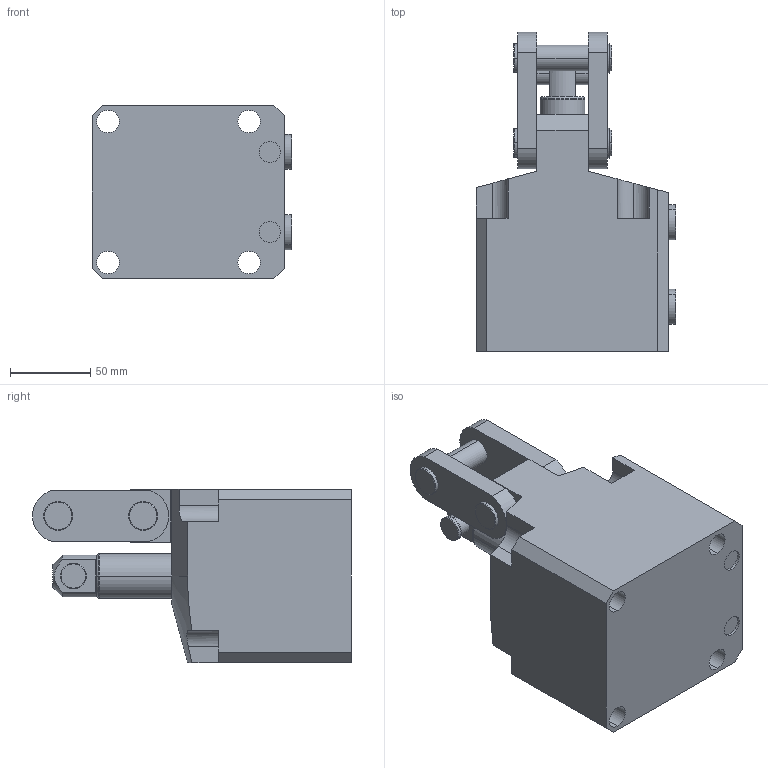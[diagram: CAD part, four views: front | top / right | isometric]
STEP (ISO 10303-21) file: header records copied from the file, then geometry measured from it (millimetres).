
FILE_DESCRIPTION(/* description */ (''),/* implementation_level */ '2;1');
FILE_NAME(/* name */ 'BPC25-L.stp',/* time_stamp */ '2025-01-05T09:56:53+08:00',/* author */ (''),/* organization */ (''),/* preprocessor_version */ 'ST-DEVELOPER v16.7',/* originating_system */ 'SIEMENS PLM Software NX 12.0',/* authorisation */ '');
FILE_SCHEMA (('AUTOMOTIVE_DESIGN { 1 0 10303 214 3 1 1 1 }'));
Length unit declared in the file: millimetre
Products named in the file (5): BPC25-L-02552; BPC25-L-03553; BPC25-L-04554; BPC25-L-01555; BPC25-L_stp
Assembly tree (5 placements, depth 2):
  BPC25-L_stp
    BPC25-L-01555
    BPC25-L-04554  x2
    BPC25-L-03553
    BPC25-L-02552
Bounding box: 124.8 x 199 x 108 mm (x, y, z)
Volume: 1411330 mm3; surface area: 127570 mm2
Topology: 5 solids, 5 shells, 256 faces, 620 edges, 398 vertices
Faces by surface type: cylinder 112, plane 106, torus 20, cone 18
Entity records: 7199 total; most frequent: CARTESIAN_POINT 1329, DIRECTION 1284, ORIENTED_EDGE 1148, EDGE_CURVE 574, AXIS2_PLACEMENT_3D 497, VERTEX_POINT 370, LINE 290, VECTOR 290
